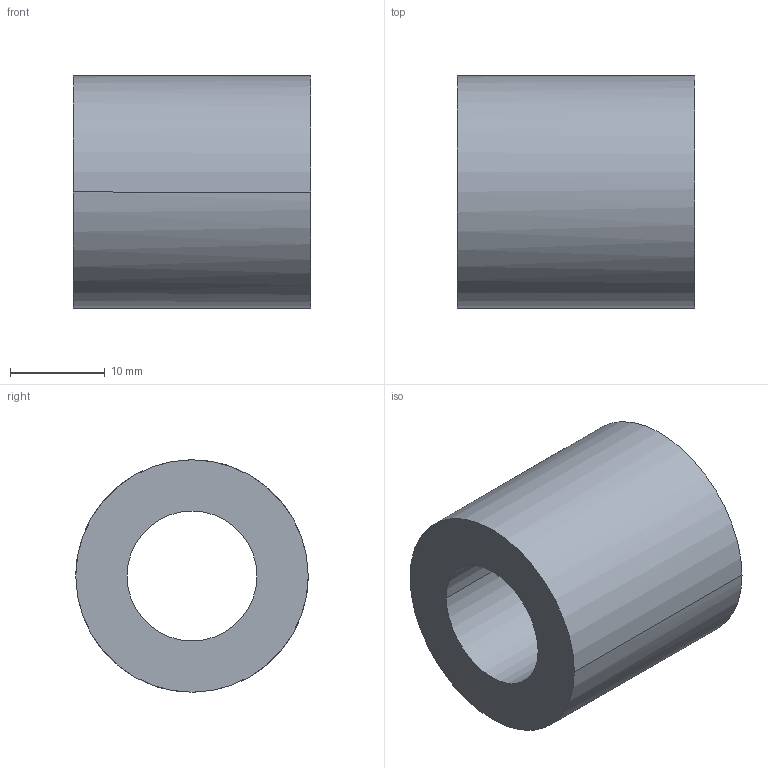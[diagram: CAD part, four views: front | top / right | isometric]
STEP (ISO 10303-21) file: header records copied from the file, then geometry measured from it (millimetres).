
FILE_DESCRIPTION(('CATIA V5 STEP Exchange'),'2;1');
FILE_NAME('C:\Users\Utente\Desktop\IO LAVORO\3D X SITO CF\X SITO\3D files 392B\392-B25-025.stp','2021-08-13T08:06:44+00:00',('none'),('none'),'CATIA Version 5 Release 20 GA (IN-10)','CATIA V5 STEP AP203','none');
FILE_SCHEMA(('CONFIG_CONTROL_DESIGN'));
Length unit declared in the file: millimetre
Products named in the file (1): 392-B25-025
Bounding box: 25 x 24.5 x 24.5 mm (x, y, z)
Volume: 8100.6 mm3; surface area: 3648.3 mm2
Topology: 1 solids, 1 shells, 6 faces, 12 edges, 8 vertices
Faces by surface type: cylinder 4, plane 2
Entity records: 244 total; most frequent: CARTESIAN_POINT 73, ORIENTED_EDGE 24, DIRECTION 22, AXIS2_PLACEMENT_3D 13, EDGE_CURVE 12, EDGE_LOOP 8, VERTEX_POINT 8, ADVANCED_FACE 6
